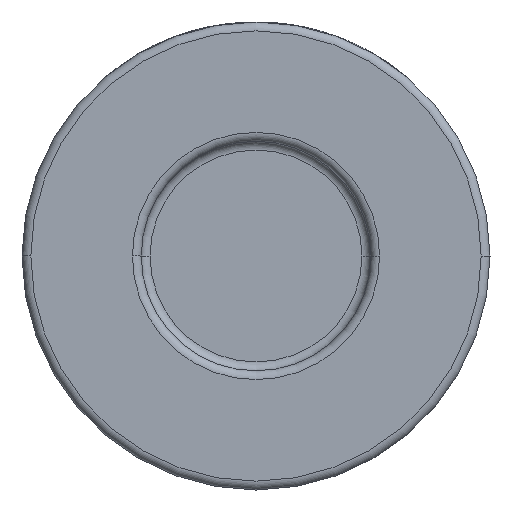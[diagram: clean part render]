
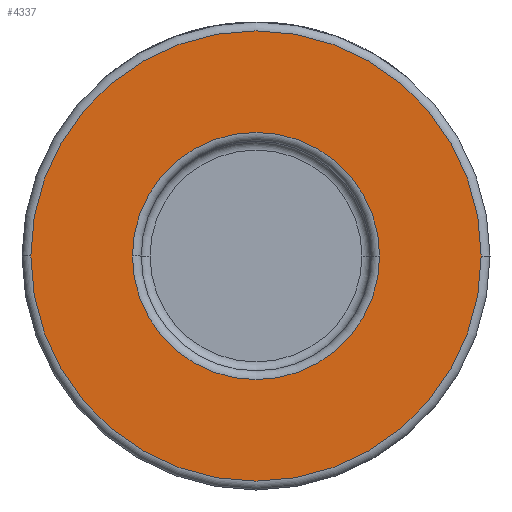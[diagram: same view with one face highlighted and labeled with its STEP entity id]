
A CAD part, front view. The second image highlights one B-rep face of the part: STEP entity #4337.
In plain terms, the highlighted planar face has unit normal (0, -1, 0).
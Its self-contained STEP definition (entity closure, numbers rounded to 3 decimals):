
#23 = DIRECTION ( 'NONE',  ( 0., -1., 0. ) ) ;
#47 = CIRCLE ( 'NONE', #1590, 14. ) ;
#197 = DIRECTION ( 'NONE',  ( 0., 1., 0. ) ) ;
#327 = EDGE_CURVE ( 'NONE', #2710, #497, #483, .T. ) ;
#399 = AXIS2_PLACEMENT_3D ( 'NONE', #3155, #23, #1425 ) ;
#481 = CARTESIAN_POINT ( 'NONE',  ( 14., -19., 0. ) ) ;
#483 = CIRCLE ( 'NONE', #768, 25.5 ) ;
#497 = VERTEX_POINT ( 'NONE', #1131 ) ;
#544 = EDGE_LOOP ( 'NONE', ( #1973, #1553 ) ) ;
#647 = EDGE_CURVE ( 'NONE', #497, #2710, #2588, .T. ) ;
#768 = AXIS2_PLACEMENT_3D ( 'NONE', #2478, #3879, #2867 ) ;
#945 = CARTESIAN_POINT ( 'NONE',  ( 26.5, -19., 0. ) ) ;
#963 = CIRCLE ( 'NONE', #2406, 14. ) ;
#1009 = EDGE_CURVE ( 'NONE', #4485, #1127, #47, .T. ) ;
#1127 = VERTEX_POINT ( 'NONE', #481 ) ;
#1131 = CARTESIAN_POINT ( 'NONE',  ( 25.5, -19., 0. ) ) ;
#1172 = AXIS2_PLACEMENT_3D ( 'NONE', #945, #2327, #1990 ) ;
#1190 = CARTESIAN_POINT ( 'NONE',  ( 0., -19., 0. ) ) ;
#1346 = FACE_BOUND ( 'NONE', #3367, .T. ) ;
#1425 = DIRECTION ( 'NONE',  ( 1., 0., 0. ) ) ;
#1553 = ORIENTED_EDGE ( 'NONE', *, *, #327, .T. ) ;
#1590 = AXIS2_PLACEMENT_3D ( 'NONE', #1190, #4331, #3581 ) ;
#1973 = ORIENTED_EDGE ( 'NONE', *, *, #647, .T. ) ;
#1990 = DIRECTION ( 'NONE',  ( 1., 0., 0. ) ) ;
#2327 = DIRECTION ( 'NONE',  ( 0., -1., 0. ) ) ;
#2406 = AXIS2_PLACEMENT_3D ( 'NONE', #4002, #197, #2571 ) ;
#2478 = CARTESIAN_POINT ( 'NONE',  ( 0., -19., 0. ) ) ;
#2571 = DIRECTION ( 'NONE',  ( 1., 0., 0. ) ) ;
#2588 = CIRCLE ( 'NONE', #399, 25.5 ) ;
#2604 = ORIENTED_EDGE ( 'NONE', *, *, #1009, .T. ) ;
#2671 = FACE_OUTER_BOUND ( 'NONE', #544, .T. ) ;
#2710 = VERTEX_POINT ( 'NONE', #3405 ) ;
#2867 = DIRECTION ( 'NONE',  ( 1., 0., 0. ) ) ;
#2870 = ORIENTED_EDGE ( 'NONE', *, *, #4509, .T. ) ;
#3155 = CARTESIAN_POINT ( 'NONE',  ( 0., -19., 0. ) ) ;
#3322 = CARTESIAN_POINT ( 'NONE',  ( -14., -19., 0. ) ) ;
#3367 = EDGE_LOOP ( 'NONE', ( #2870, #2604 ) ) ;
#3405 = CARTESIAN_POINT ( 'NONE',  ( -25.5, -19., 0. ) ) ;
#3581 = DIRECTION ( 'NONE',  ( 1., 0., 0. ) ) ;
#3879 = DIRECTION ( 'NONE',  ( 0., -1., 0. ) ) ;
#4002 = CARTESIAN_POINT ( 'NONE',  ( 0., -19., 0. ) ) ;
#4331 = DIRECTION ( 'NONE',  ( 0., 1., 0. ) ) ;
#4337 = ADVANCED_FACE ( 'NONE', ( #1346, #2671 ), #4469, .T. ) ;
#4469 = PLANE ( 'NONE',  #1172 ) ;
#4485 = VERTEX_POINT ( 'NONE', #3322 ) ;
#4509 = EDGE_CURVE ( 'NONE', #1127, #4485, #963, .T. ) ;
